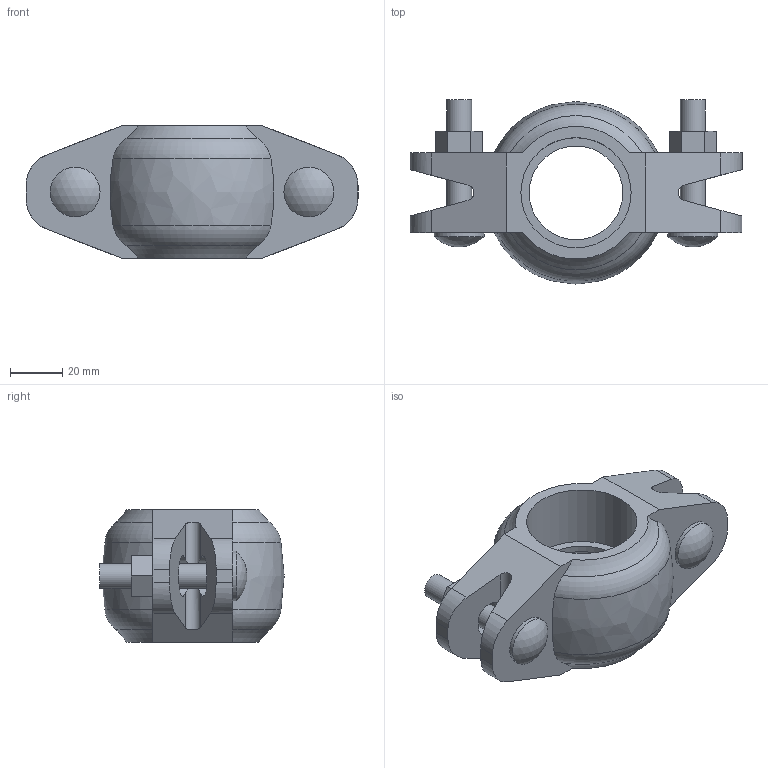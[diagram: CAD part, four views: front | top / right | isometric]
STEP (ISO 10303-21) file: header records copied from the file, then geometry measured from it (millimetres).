
FILE_DESCRIPTION(/* description */ ('VICTAULIC STYLE 009N FIRELOCK EZ RIGID COUPLING','CAx-IF Rec.Pracs.---Representation and Presentation of Product Manufacturing Information (PMI)---4.0---2014-10-13'),/* implementation_level */ '2;1');
FILE_NAME(/* name */ 'C:\Users\Vjadhav\AppData\Roaming\Autodesk\ApplicationPlugins\Victaulic.Temp\A361\Victaulic_FP-FireLock_Coupling Rigid_IR_Style 009N (OGS)_1.25 (32).stp',/* time_stamp */ '2022-03-23T18:54:19+05:00',/* author */ ('Vjadhav'),/* organization */ ('Victaulic'),/* preprocessor_version */ 'ST-DEVELOPER v17.2',/* originating_system */ 'Autodesk Inventor 2019',/* authorisation */ '');
FILE_SCHEMA (('AP242_MANAGED_MODEL_BASED_3D_ENGINEERING_MIM_LF { 1 0 10303 442 1 1 4 }'));
Length unit declared in the file: inch
Products named in the file (2): 009N-01.25; 009N-01.25_1
Assembly tree (1 placements, depth 2):
  009N-01.25
    009N-01.25_1
Bounding box: 127 x 70.48 x 50.8 mm (x, y, z)
Volume: 155296.8 mm3; surface area: 34733.6 mm2
Topology: 1 solids, 1 shells, 83 faces, 239 edges, 162 vertices
Faces by surface type: plane 46, cylinder 25, torus 8, sphere 2, bspline 2
Full cylindrical faces by diameter (mm): 9.525 x4, 19.05 x2, 35.814 x1, 42.164 x2
Entity records: 3215 total; most frequent: CARTESIAN_POINT 811, ORIENTED_EDGE 478, DIRECTION 465, EDGE_CURVE 239, AXIS2_PLACEMENT_3D 166, VERTEX_POINT 162, LINE 133, VECTOR 133
